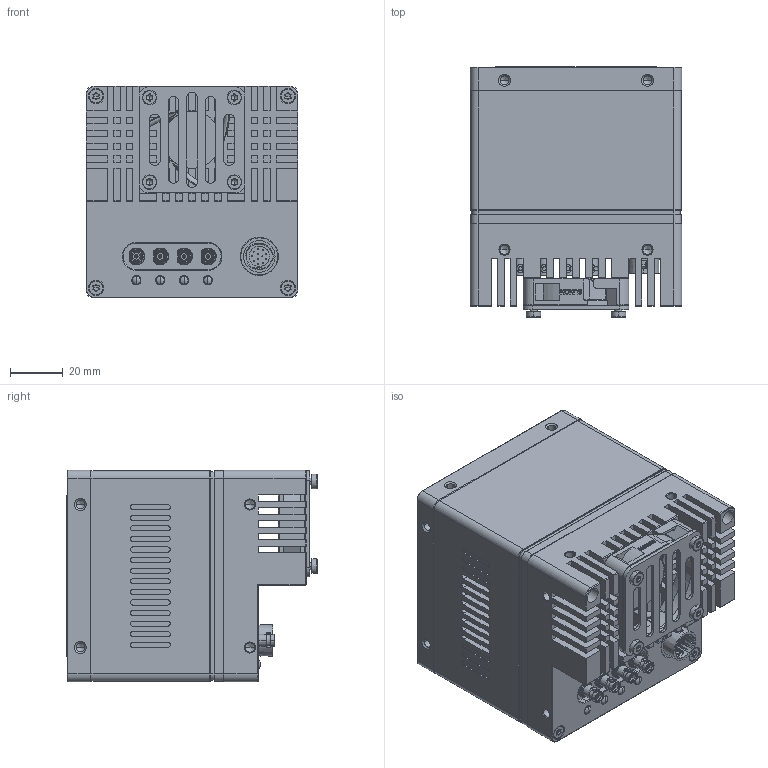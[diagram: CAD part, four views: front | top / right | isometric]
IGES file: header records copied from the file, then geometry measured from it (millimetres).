
Start section:  PTC IGES file: 0-DH3-2632-0005.igs
Global section: file name: 0-DH3-2632-0005.igs; native system: Creo Parametric by PTC Inc.; preprocessor: 2020184; author: 309376; organization: Unknown; date: 20231201.152926; units: millimetre
Bounding box: 80 x 94.51 x 80 mm (x, y, z)
Volume: 439180 mm3; surface area: 105893.1 mm2
Topology: 1 solids, 56 shells, 3031 faces, 8179 edges, 5273 vertices
Faces by surface type: bspline 1521, revolution 1505, extrusion 5
